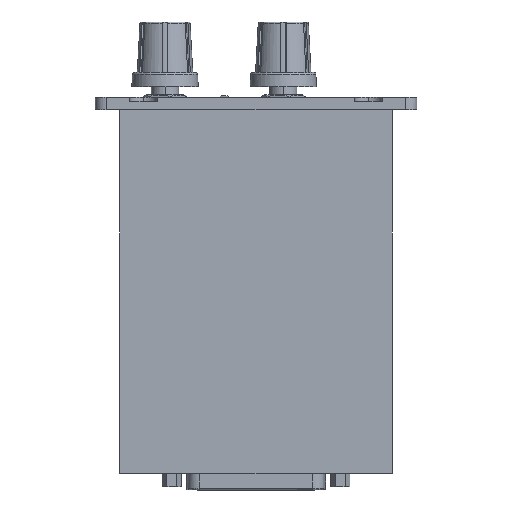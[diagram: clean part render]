
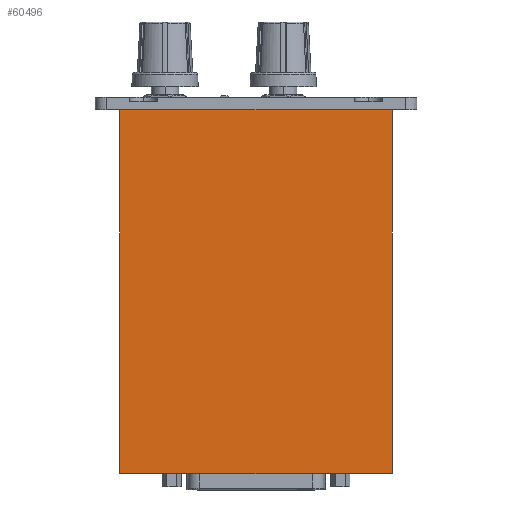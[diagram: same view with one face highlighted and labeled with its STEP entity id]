
A CAD part, left-side view. The second image highlights one B-rep face of the part: STEP entity #60496.
In plain terms, the highlighted free-form (B-spline) face has degree [1, 1] with [2, 2] control points.
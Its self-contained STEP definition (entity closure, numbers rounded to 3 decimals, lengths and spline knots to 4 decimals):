
#561 = ORIENTED_EDGE ( 'NONE', *, *, #43169, .T. ) ;
#797 = CARTESIAN_POINT ( 'NONE',  ( -0.05, -2.95, 0. ) ) ;
#2009 = CARTESIAN_POINT ( 'NONE',  ( -0.05, -2.95, -4. ) ) ;
#4339 = VERTEX_POINT ( 'NONE', #39638 ) ;
#7344 = VERTEX_POINT ( 'NONE', #44153 ) ;
#14010 = CARTESIAN_POINT ( 'NONE',  ( -0.05, -2.95, 0. ) ) ;
#16566 = ORIENTED_EDGE ( 'NONE', *, *, #35661, .T. ) ;
#16642 = ORIENTED_EDGE ( 'NONE', *, *, #31872, .F. ) ;
#23641 = CARTESIAN_POINT ( 'NONE',  ( -0.05, -2.95, -4. ) ) ;
#24791 = B_SPLINE_CURVE_WITH_KNOTS ( 'NONE', 1,
 ( #42969, #28673 ),
 .UNSPECIFIED., .F., .F.,
 ( 2, 2 ),
 ( 0., 1. ),
 .UNSPECIFIED. ) ;
#24946 = CARTESIAN_POINT ( 'NONE',  ( -0.05, 0.05, -4. ) ) ;
#26315 = B_SPLINE_CURVE_WITH_KNOTS ( 'NONE', 1,
 ( #24946, #60943 ),
 .UNSPECIFIED., .F., .F.,
 ( 2, 2 ),
 ( 0., 1. ),
 .UNSPECIFIED. ) ;
#27939 = FACE_OUTER_BOUND ( 'NONE', #54816, .T. ) ;
#28673 = CARTESIAN_POINT ( 'NONE',  ( -0.05, 0.05, -4. ) ) ;
#28992 = B_SPLINE_CURVE_WITH_KNOTS ( 'NONE', 1,
 ( #30323, #797 ),
 .UNSPECIFIED., .F., .F.,
 ( 2, 2 ),
 ( 0., 1. ),
 .UNSPECIFIED. ) ;
#29293 = B_SPLINE_SURFACE_WITH_KNOTS ( 'NONE', 1, 1, ( 
 ( #62353, #47727 ),
 ( #2009, #41589 ) ),
 .UNSPECIFIED., .F., .F., .F.,
 ( 2, 2 ),
 ( 2, 2 ),
 ( 0., 1. ),
 ( 0., 1. ),
 .UNSPECIFIED. ) ;
#30323 = CARTESIAN_POINT ( 'NONE',  ( -0.05, -2.95, -4. ) ) ;
#31872 = EDGE_CURVE ( 'NONE', #61632, #4339, #28992, .T. ) ;
#35661 = EDGE_CURVE ( 'NONE', #7344, #38474, #26315, .T. ) ;
#38474 = VERTEX_POINT ( 'NONE', #55798 ) ;
#39638 = CARTESIAN_POINT ( 'NONE',  ( -0.05, -2.95, 0. ) ) ;
#41589 = CARTESIAN_POINT ( 'NONE',  ( -0.05, 0.05, -4. ) ) ;
#42969 = CARTESIAN_POINT ( 'NONE',  ( -0.05, -2.95, -4. ) ) ;
#43169 = EDGE_CURVE ( 'NONE', #61632, #7344, #24791, .T. ) ;
#43865 = CARTESIAN_POINT ( 'NONE',  ( -0.05, 0.05, 0. ) ) ;
#44153 = CARTESIAN_POINT ( 'NONE',  ( -0.05, 0.05, -4. ) ) ;
#47727 = CARTESIAN_POINT ( 'NONE',  ( -0.05, 0.05, 0. ) ) ;
#50430 = ORIENTED_EDGE ( 'NONE', *, *, #59994, .T. ) ;
#54816 = EDGE_LOOP ( 'NONE', ( #16642, #561, #16566, #50430 ) ) ;
#55798 = CARTESIAN_POINT ( 'NONE',  ( -0.05, 0.05, 0. ) ) ;
#59994 = EDGE_CURVE ( 'NONE', #38474, #4339, #60119, .T. ) ;
#60119 = B_SPLINE_CURVE_WITH_KNOTS ( 'NONE', 1,
 ( #43865, #14010 ),
 .UNSPECIFIED., .F., .F.,
 ( 2, 2 ),
 ( 0., 1. ),
 .UNSPECIFIED. ) ;
#60496 = ADVANCED_FACE ( 'NONE', ( #27939 ), #29293, .T. ) ;
#60943 = CARTESIAN_POINT ( 'NONE',  ( -0.05, 0.05, 0. ) ) ;
#61632 = VERTEX_POINT ( 'NONE', #23641 ) ;
#62353 = CARTESIAN_POINT ( 'NONE',  ( -0.05, -2.95, 0. ) ) ;
